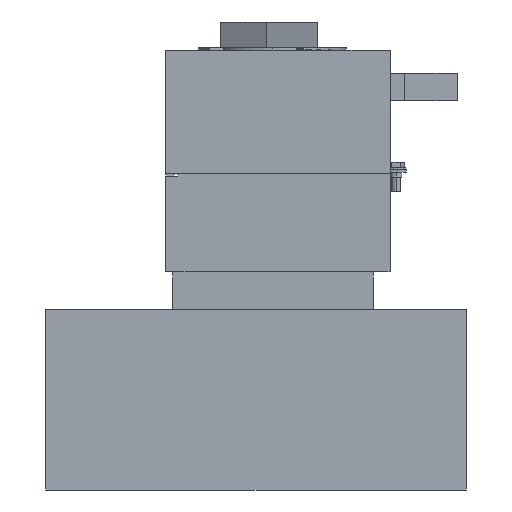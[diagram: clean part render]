
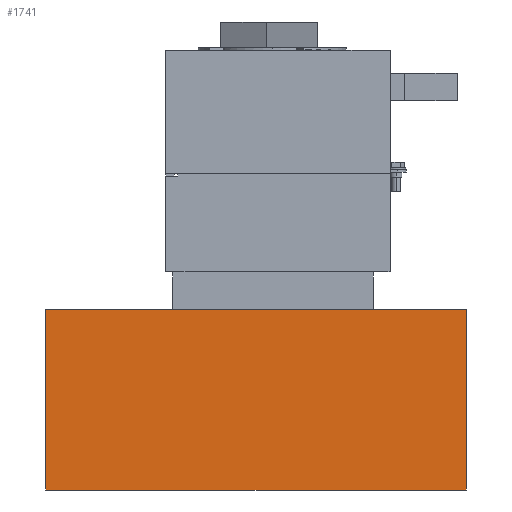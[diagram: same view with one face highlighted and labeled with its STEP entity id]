
A CAD part, left-side view. The second image highlights one B-rep face of the part: STEP entity #1741.
In plain terms, the highlighted planar face has unit normal (-1, 0, 0).
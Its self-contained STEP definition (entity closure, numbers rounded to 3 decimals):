
#26 = DIRECTION ( 'NONE',  ( 0., 1., 0. ) ) ;
#134 = CARTESIAN_POINT ( 'NONE',  ( -112.5, 112., 96.05 ) ) ;
#413 = ORIENTED_EDGE ( 'NONE', *, *, #8475, .F. ) ;
#754 = EDGE_LOOP ( 'NONE', ( #9977, #2363, #413, #10500 ) ) ;
#1316 = CARTESIAN_POINT ( 'NONE',  ( -112.5, 112., 96.05 ) ) ;
#1741 = ADVANCED_FACE ( 'NONE', ( #11373 ), #13573, .F. ) ;
#2074 = EDGE_CURVE ( 'NONE', #10995, #16045, #10947, .T. ) ;
#2363 = ORIENTED_EDGE ( 'NONE', *, *, #15770, .F. ) ;
#2964 = EDGE_CURVE ( 'NONE', #16045, #13703, #6702, .T. ) ;
#3366 = VECTOR ( 'NONE', #11669, 1000. ) ;
#4230 = LINE ( 'NONE', #15267, #14535 ) ;
#4546 = DIRECTION ( 'NONE',  ( 0., 0., -1. ) ) ;
#5428 = VECTOR ( 'NONE', #7946, 1000. ) ;
#5998 = CARTESIAN_POINT ( 'NONE',  ( -112.5, -112., 0. ) ) ;
#6623 = DIRECTION ( 'NONE',  ( 0., -1., 0. ) ) ;
#6702 = LINE ( 'NONE', #7884, #5428 ) ;
#7884 = CARTESIAN_POINT ( 'NONE',  ( -112.5, 112., 0. ) ) ;
#7946 = DIRECTION ( 'NONE',  ( 0., -1., 0. ) ) ;
#8475 = EDGE_CURVE ( 'NONE', #10995, #9617, #10535, .T. ) ;
#9617 = VERTEX_POINT ( 'NONE', #10049 ) ;
#9977 = ORIENTED_EDGE ( 'NONE', *, *, #2964, .T. ) ;
#10049 = CARTESIAN_POINT ( 'NONE',  ( -112.5, -112., 96.05 ) ) ;
#10500 = ORIENTED_EDGE ( 'NONE', *, *, #2074, .T. ) ;
#10512 = CARTESIAN_POINT ( 'NONE',  ( -112.5, 112., 96.05 ) ) ;
#10535 = LINE ( 'NONE', #10512, #15385 ) ;
#10947 = LINE ( 'NONE', #11550, #3366 ) ;
#10995 = VERTEX_POINT ( 'NONE', #1316 ) ;
#11373 = FACE_OUTER_BOUND ( 'NONE', #754, .T. ) ;
#11550 = CARTESIAN_POINT ( 'NONE',  ( -112.5, 112., 96.05 ) ) ;
#11669 = DIRECTION ( 'NONE',  ( 0., 0., -1. ) ) ;
#12025 = CARTESIAN_POINT ( 'NONE',  ( -112.5, 112., 0. ) ) ;
#13573 = PLANE ( 'NONE',  #14082 ) ;
#13703 = VERTEX_POINT ( 'NONE', #5998 ) ;
#14082 = AXIS2_PLACEMENT_3D ( 'NONE', #134, #16177, #26 ) ;
#14535 = VECTOR ( 'NONE', #4546, 1000. ) ;
#15267 = CARTESIAN_POINT ( 'NONE',  ( -112.5, -112., 96.05 ) ) ;
#15385 = VECTOR ( 'NONE', #6623, 1000. ) ;
#15770 = EDGE_CURVE ( 'NONE', #9617, #13703, #4230, .T. ) ;
#16045 = VERTEX_POINT ( 'NONE', #12025 ) ;
#16177 = DIRECTION ( 'NONE',  ( 1., 0., 0. ) ) ;
